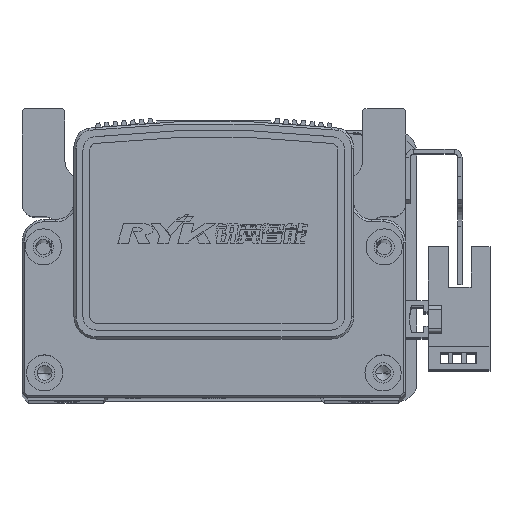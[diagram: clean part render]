
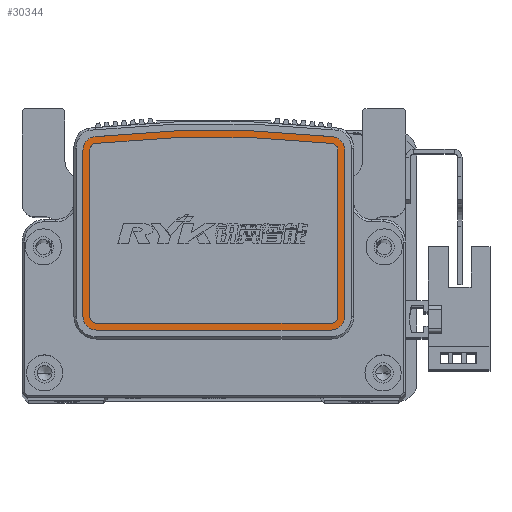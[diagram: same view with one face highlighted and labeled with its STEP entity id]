
A CAD part, top view. The second image highlights one B-rep face of the part: STEP entity #30344.
In plain terms, the highlighted planar face has unit normal (0, 0, 1) as drawn and (1, 0, 0) by its records, which use the part's own axes.
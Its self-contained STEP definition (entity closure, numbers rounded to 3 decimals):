
#278 = VECTOR ( 'NONE', #22475, 1000. ) ;
#280 = LINE ( 'NONE', #22470, #315 ) ;
#289 = CIRCLE ( 'NONE', #27731, 3. ) ;
#296 = LINE ( 'NONE', #22440, #278 ) ;
#297 = CIRCLE ( 'NONE', #27757, 246.313 ) ;
#309 = LINE ( 'NONE', #22459, #345 ) ;
#315 = VECTOR ( 'NONE', #22439, 1000. ) ;
#330 = CIRCLE ( 'NONE', #27756, 3. ) ;
#345 = VECTOR ( 'NONE', #22465, 1000. ) ;
#595 = CIRCLE ( 'NONE', #27778, 3. ) ;
#1237 = CIRCLE ( 'NONE', #27655, 1.5 ) ;
#1248 = VECTOR ( 'NONE', #21820, 1000. ) ;
#1262 = VECTOR ( 'NONE', #21719, 1000. ) ;
#1269 = LINE ( 'NONE', #21780, #1284 ) ;
#1271 = CIRCLE ( 'NONE', #27659, 1.5 ) ;
#1272 = LINE ( 'NONE', #21828, #1248 ) ;
#1281 = CIRCLE ( 'NONE', #27707, 244.813 ) ;
#1284 = VECTOR ( 'NONE', #21769, 1000. ) ;
#1303 = LINE ( 'NONE', #21680, #1262 ) ;
#1343 = CIRCLE ( 'NONE', #27729, 1.5 ) ;
#1373 = CIRCLE ( 'NONE', #27764, 1.5 ) ;
#1409 = CIRCLE ( 'NONE', #27721, 3. ) ;
#10154 = CARTESIAN_POINT ( 'NONE',  ( 9., 19.871, 26. ) ) ;
#10186 = PLANE ( 'NONE',  #20695 ) ;
#10188 = DIRECTION ( 'NONE',  ( 0., 0., -1. ) ) ;
#10198 = DIRECTION ( 'NONE',  ( 1., 0., 0. ) ) ;
#12731 = FACE_BOUND ( 'NONE', #18931, .T. ) ;
#12782 = FACE_OUTER_BOUND ( 'NONE', #20001, .T. ) ;
#18931 = EDGE_LOOP ( 'NONE', ( #41825, #41811, #41753, #41919, #41773, #41905, #41799, #41929 ) ) ;
#20001 = EDGE_LOOP ( 'NONE', ( #41765, #41705, #41797, #41931, #47939, #47922, #47899, #47885 ) ) ;
#20695 = AXIS2_PLACEMENT_3D ( 'NONE', #10154, #10198, #10188 ) ;
#21578 = DIRECTION ( 'NONE',  ( 1., 0., 0. ) ) ;
#21580 = DIRECTION ( 'NONE',  ( 0., 0., 1. ) ) ;
#21593 = CARTESIAN_POINT ( 'NONE',  ( 9., 19.871, 26. ) ) ;
#21680 = CARTESIAN_POINT ( 'NONE',  ( 9., -18.5, 26. ) ) ;
#21719 = DIRECTION ( 'NONE',  ( 0., 0., -1. ) ) ;
#21744 = CARTESIAN_POINT ( 'NONE',  ( 9., -222.049, 0. ) ) ;
#21748 = DIRECTION ( 'NONE',  ( 1., 0., 0. ) ) ;
#21752 = DIRECTION ( 'NONE',  ( 0., 0., 1. ) ) ;
#21769 = DIRECTION ( 'NONE',  ( 0., -1., 0. ) ) ;
#21780 = CARTESIAN_POINT ( 'NONE',  ( 9., 19.871, 27.5 ) ) ;
#21808 = CARTESIAN_POINT ( 'NONE',  ( 9., -17., 26. ) ) ;
#21820 = DIRECTION ( 'NONE',  ( 0., 1., 0. ) ) ;
#21828 = CARTESIAN_POINT ( 'NONE',  ( 9., 19.871, -27.5 ) ) ;
#21838 = DIRECTION ( 'NONE',  ( 1., 0., 0. ) ) ;
#21842 = DIRECTION ( 'NONE',  ( 0., 0., 1. ) ) ;
#21887 = CARTESIAN_POINT ( 'NONE',  ( 9., -17., -26. ) ) ;
#21890 = DIRECTION ( 'NONE',  ( 1., 0., 0. ) ) ;
#21892 = DIRECTION ( 'NONE',  ( 0., 0., 1. ) ) ;
#21903 = CARTESIAN_POINT ( 'NONE',  ( 9., 19.871, -26. ) ) ;
#21905 = DIRECTION ( 'NONE',  ( 1., 0., 0. ) ) ;
#21907 = DIRECTION ( 'NONE',  ( 0., 0., 1. ) ) ;
#22202 = CARTESIAN_POINT ( 'NONE',  ( 9., -17., -26. ) ) ;
#22208 = DIRECTION ( 'NONE',  ( 1., 0., 0. ) ) ;
#22216 = DIRECTION ( 'NONE',  ( 0., 0., -1. ) ) ;
#22439 = DIRECTION ( 'NONE',  ( 0., 1., 0. ) ) ;
#22440 = CARTESIAN_POINT ( 'NONE',  ( 9., 19.871, 29. ) ) ;
#22444 = DIRECTION ( 'NONE',  ( 0., 0., -1. ) ) ;
#22452 = DIRECTION ( 'NONE',  ( 1., 0., 0. ) ) ;
#22459 = CARTESIAN_POINT ( 'NONE',  ( 9., -20., 26. ) ) ;
#22465 = DIRECTION ( 'NONE',  ( 0., 0., -1. ) ) ;
#22469 = DIRECTION ( 'NONE',  ( 0., 0., -1. ) ) ;
#22470 = CARTESIAN_POINT ( 'NONE',  ( 9., -17., -29. ) ) ;
#22475 = DIRECTION ( 'NONE',  ( 0., -1., 0. ) ) ;
#22477 = CARTESIAN_POINT ( 'NONE',  ( 9., 19.871, -26. ) ) ;
#22478 = CARTESIAN_POINT ( 'NONE',  ( 9., -222.049, 0. ) ) ;
#22481 = DIRECTION ( 'NONE',  ( 1., 0., 0. ) ) ;
#22504 = CARTESIAN_POINT ( 'NONE',  ( 9., 19.871, 26. ) ) ;
#22509 = DIRECTION ( 'NONE',  ( 1., 0., 0. ) ) ;
#22510 = DIRECTION ( 'NONE',  ( 0., 0., 1. ) ) ;
#22564 = DIRECTION ( 'NONE',  ( 0., 0., -1. ) ) ;
#22570 = CARTESIAN_POINT ( 'NONE',  ( 9., -17., 26. ) ) ;
#22571 = DIRECTION ( 'NONE',  ( 1., 0., 0. ) ) ;
#27655 = AXIS2_PLACEMENT_3D ( 'NONE', #21593, #21578, #21580 ) ;
#27659 = AXIS2_PLACEMENT_3D ( 'NONE', #21808, #21838, #21842 ) ;
#27707 = AXIS2_PLACEMENT_3D ( 'NONE', #21744, #21748, #21752 ) ;
#27721 = AXIS2_PLACEMENT_3D ( 'NONE', #22202, #22208, #22216 ) ;
#27729 = AXIS2_PLACEMENT_3D ( 'NONE', #21903, #21905, #21907 ) ;
#27731 = AXIS2_PLACEMENT_3D ( 'NONE', #22504, #22509, #22510 ) ;
#27756 = AXIS2_PLACEMENT_3D ( 'NONE', #22477, #22452, #22469 ) ;
#27757 = AXIS2_PLACEMENT_3D ( 'NONE', #22478, #22481, #22444 ) ;
#27764 = AXIS2_PLACEMENT_3D ( 'NONE', #21887, #21890, #21892 ) ;
#27778 = AXIS2_PLACEMENT_3D ( 'NONE', #22570, #22571, #22564 ) ;
#30344 = ADVANCED_FACE ( 'NONE', ( #12731, #12782 ), #10186, .T. ) ;
#41705 = ORIENTED_EDGE ( 'NONE', *, *, #57379, .T. ) ;
#41753 = ORIENTED_EDGE ( 'NONE', *, *, #57198, .F. ) ;
#41765 = ORIENTED_EDGE ( 'NONE', *, *, #57410, .T. ) ;
#41773 = ORIENTED_EDGE ( 'NONE', *, *, #57149, .F. ) ;
#41797 = ORIENTED_EDGE ( 'NONE', *, *, #57429, .T. ) ;
#41799 = ORIENTED_EDGE ( 'NONE', *, *, #57180, .F. ) ;
#41811 = ORIENTED_EDGE ( 'NONE', *, *, #57217, .F. ) ;
#41825 = ORIENTED_EDGE ( 'NONE', *, *, #57147, .F. ) ;
#41905 = ORIENTED_EDGE ( 'NONE', *, *, #57181, .F. ) ;
#41919 = ORIENTED_EDGE ( 'NONE', *, *, #57216, .F. ) ;
#41929 = ORIENTED_EDGE ( 'NONE', *, *, #57137, .F. ) ;
#41931 = ORIENTED_EDGE ( 'NONE', *, *, #57391, .T. ) ;
#45548 = VERTEX_POINT ( 'NONE', #46202 ) ;
#45569 = VERTEX_POINT ( 'NONE', #46170 ) ;
#45577 = VERTEX_POINT ( 'NONE', #46264 ) ;
#45580 = VERTEX_POINT ( 'NONE', #46261 ) ;
#45585 = VERTEX_POINT ( 'NONE', #46270 ) ;
#45605 = VERTEX_POINT ( 'NONE', #46237 ) ;
#45612 = VERTEX_POINT ( 'NONE', #46292 ) ;
#45616 = VERTEX_POINT ( 'NONE', #46233 ) ;
#45621 = VERTEX_POINT ( 'NONE', #46240 ) ;
#45628 = VERTEX_POINT ( 'NONE', #46234 ) ;
#45634 = VERTEX_POINT ( 'NONE', #46297 ) ;
#45644 = VERTEX_POINT ( 'NONE', #46339 ) ;
#45647 = VERTEX_POINT ( 'NONE', #46336 ) ;
#45650 = VERTEX_POINT ( 'NONE', #46311 ) ;
#45657 = VERTEX_POINT ( 'NONE', #46320 ) ;
#45702 = VERTEX_POINT ( 'NONE', #46371 ) ;
#46170 = CARTESIAN_POINT ( 'NONE',  ( 9., 21.363, 26.16 ) ) ;
#46202 = CARTESIAN_POINT ( 'NONE',  ( 9., 19.871, 27.5 ) ) ;
#46233 = CARTESIAN_POINT ( 'NONE',  ( 9., -17., -27.5 ) ) ;
#46234 = CARTESIAN_POINT ( 'NONE',  ( 9., 19.871, -27.5 ) ) ;
#46237 = CARTESIAN_POINT ( 'NONE',  ( 9., 19.871, -29. ) ) ;
#46240 = CARTESIAN_POINT ( 'NONE',  ( 9., -17., 27.5 ) ) ;
#46261 = CARTESIAN_POINT ( 'NONE',  ( 9., 22.854, -26.321 ) ) ;
#46264 = CARTESIAN_POINT ( 'NONE',  ( 9., -18.5, -26. ) ) ;
#46270 = CARTESIAN_POINT ( 'NONE',  ( 9., -18.5, 26. ) ) ;
#46292 = CARTESIAN_POINT ( 'NONE',  ( 9., 21.363, -26.16 ) ) ;
#46297 = CARTESIAN_POINT ( 'NONE',  ( 9., 19.871, 29. ) ) ;
#46311 = CARTESIAN_POINT ( 'NONE',  ( 9., -17., -29. ) ) ;
#46320 = CARTESIAN_POINT ( 'NONE',  ( 9., -20., -26. ) ) ;
#46336 = CARTESIAN_POINT ( 'NONE',  ( 9., 22.854, 26.321 ) ) ;
#46339 = CARTESIAN_POINT ( 'NONE',  ( 9., -20., 26. ) ) ;
#46371 = CARTESIAN_POINT ( 'NONE',  ( 9., -17., 29. ) ) ;
#47885 = ORIENTED_EDGE ( 'NONE', *, *, #57385, .T. ) ;
#47899 = ORIENTED_EDGE ( 'NONE', *, *, #57374, .T. ) ;
#47922 = ORIENTED_EDGE ( 'NONE', *, *, #57372, .T. ) ;
#47939 = ORIENTED_EDGE ( 'NONE', *, *, #57301, .T. ) ;
#57137 = EDGE_CURVE ( 'NONE', #45569, #45548, #1237, .T. ) ;
#57147 = EDGE_CURVE ( 'NONE', #45612, #45569, #1281, .T. ) ;
#57149 = EDGE_CURVE ( 'NONE', #45585, #45577, #1303, .T. ) ;
#57180 = EDGE_CURVE ( 'NONE', #45548, #45621, #1269, .T. ) ;
#57181 = EDGE_CURVE ( 'NONE', #45621, #45585, #1271, .T. ) ;
#57198 = EDGE_CURVE ( 'NONE', #45616, #45628, #1272, .T. ) ;
#57216 = EDGE_CURVE ( 'NONE', #45577, #45616, #1373, .T. ) ;
#57217 = EDGE_CURVE ( 'NONE', #45628, #45612, #1343, .T. ) ;
#57301 = EDGE_CURVE ( 'NONE', #45657, #45650, #1409, .T. ) ;
#57372 = EDGE_CURVE ( 'NONE', #45650, #45605, #280, .T. ) ;
#57374 = EDGE_CURVE ( 'NONE', #45605, #45580, #330, .T. ) ;
#57379 = EDGE_CURVE ( 'NONE', #45634, #45702, #296, .T. ) ;
#57385 = EDGE_CURVE ( 'NONE', #45580, #45647, #297, .T. ) ;
#57391 = EDGE_CURVE ( 'NONE', #45644, #45657, #309, .T. ) ;
#57410 = EDGE_CURVE ( 'NONE', #45647, #45634, #289, .T. ) ;
#57429 = EDGE_CURVE ( 'NONE', #45702, #45644, #595, .T. ) ;
